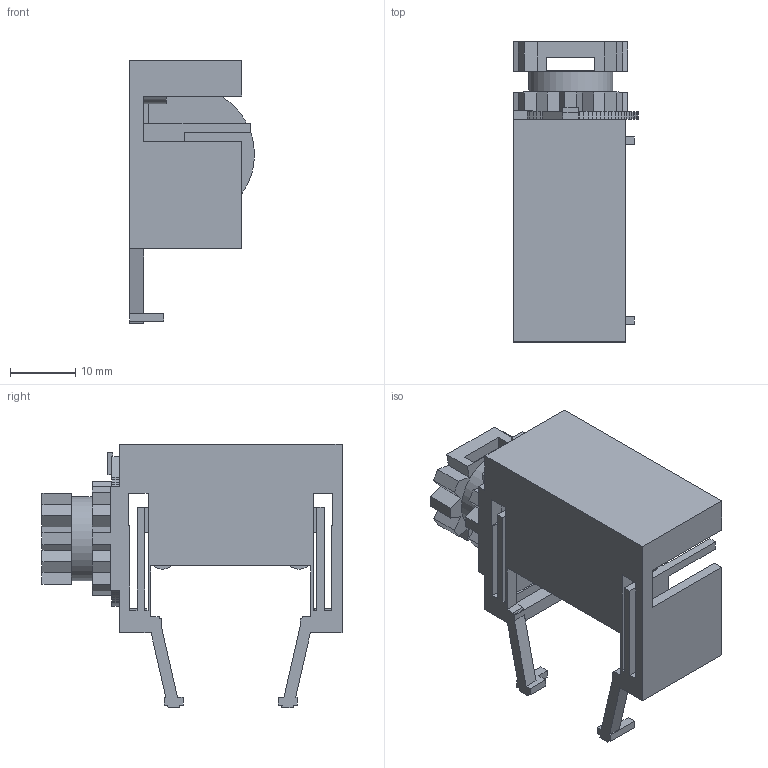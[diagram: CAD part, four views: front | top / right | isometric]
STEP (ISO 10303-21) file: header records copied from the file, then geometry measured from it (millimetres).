
FILE_DESCRIPTION(('Open CASCADE Model'),'2;1');
FILE_NAME('Open CASCADE Shape Model','2026-10-14T01:56:37',('Author'),( 'Open CASCADE'),'Open CASCADE STEP processor 8.0','build123d', 'Unknown');
FILE_SCHEMA(('AUTOMOTIVE_DESIGN { 1 0 10303 214 1 1 1 1 }'));
Length unit declared in the file: millimetre
Products named in the file (1): COMPOUND
Bounding box: 19.15 x 46.1 x 40.5 mm (x, y, z)
Volume: 6645 mm3; surface area: 7126.4 mm2
Topology: 1 solids, 1 shells, 274 faces, 794 edges, 526 vertices
Faces by surface type: plane 265, cylinder 9
Full cylindrical faces by diameter (mm): 2.6 x4, 4.4 x4, 12.9 x1
Entity records: 18870 total; most frequent: CARTESIAN_POINT 3655, DIRECTION 2568, LINE 1966, VECTOR 1966, ORIENTED_EDGE 1588, PCURVE 1588, DEFINITIONAL_REPRESENTATION 1588, EDGE_CURVE 794
